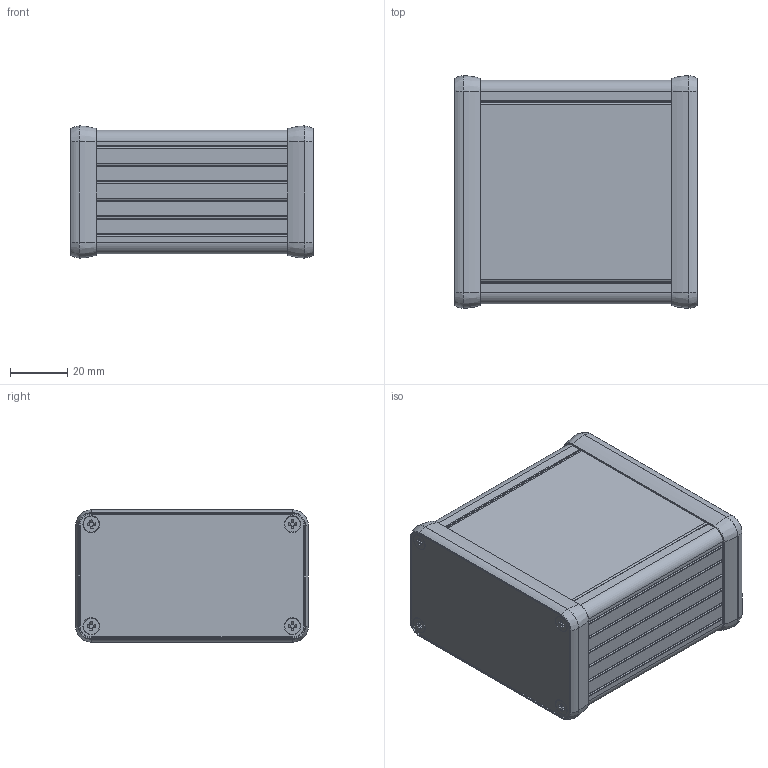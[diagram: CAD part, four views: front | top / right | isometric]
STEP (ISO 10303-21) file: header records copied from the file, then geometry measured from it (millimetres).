
FILE_DESCRIPTION(/* description */ (''),/* implementation_level */ '2;1');
FILE_NAME(/* name */ '1455K801.stp',/* time_stamp */ '2025-09-19T07:49:43-04:00',/* author */ ('tfoster'),/* organization */ (''),/* preprocessor_version */ 'ST-DEVELOPER v20.1',/* originating_system */ 'Autodesk Inventor 2026',/* authorisation */ '');
FILE_SCHEMA (('AUTOMOTIVE_DESIGN { 1 0 10303 214 3 1 1 }'));
Length unit declared in the file: millimetre
Products named in the file (6): 1455K801; K Channel Extrusion 80mm; K Cap Extrusion 80mm; K1 Bezel Closed; K End Plate; 1455 screw
Assembly tree (14 placements, depth 2):
  1455K801
    K Channel Extrusion 80mm
    K Cap Extrusion 80mm
    K1 Bezel Closed  x2
    K End Plate  x2
    1455 screw  x8
Bounding box: 84.6 x 81.13 x 46.13 mm (x, y, z)
Volume: 56376 mm3; surface area: 74843.5 mm2
Topology: 14 solids, 14 shells, 660 faces, 1780 edges, 1160 vertices
Faces by surface type: cylinder 298, plane 266, cone 56, torus 24, bspline 16
Full cylindrical faces by diameter (mm): 3.5 x16, 4.191 x8
Entity records: 14705 total; most frequent: DIRECTION 2655, CARTESIAN_POINT 2582, ORIENTED_EDGE 2464, EDGE_CURVE 1232, AXIS2_PLACEMENT_3D 982, VERTEX_POINT 809, LINE 691, VECTOR 691
